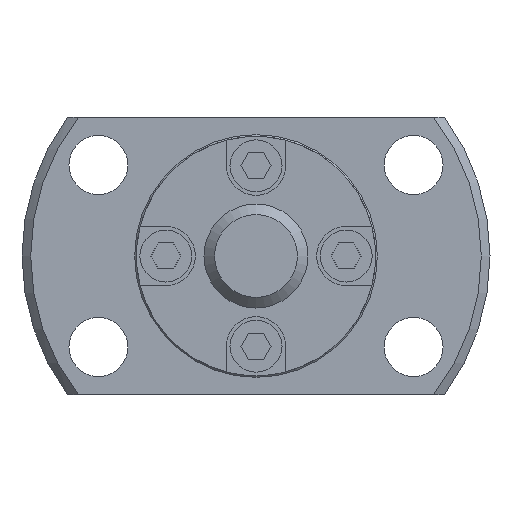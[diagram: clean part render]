
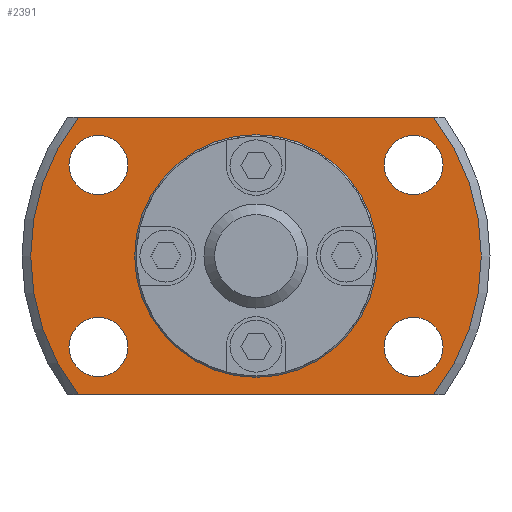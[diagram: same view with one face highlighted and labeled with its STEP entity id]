
A CAD part, left-side view. The second image highlights one B-rep face of the part: STEP entity #2391.
In plain terms, the highlighted planar face has unit normal (-1, 0, 0).
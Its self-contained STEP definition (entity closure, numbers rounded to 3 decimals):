
#113=LINE('',#3787,#337);
#114=LINE('',#3791,#338);
#337=VECTOR('',#3029,1000.);
#338=VECTOR('',#3032,1000.);
#689=ORIENTED_EDGE('',*,*,#1303,.F.);
#690=ORIENTED_EDGE('',*,*,#1304,.F.);
#691=ORIENTED_EDGE('',*,*,#1305,.F.);
#692=ORIENTED_EDGE('',*,*,#1306,.F.);
#693=ORIENTED_EDGE('',*,*,#1259,.F.);
#694=ORIENTED_EDGE('',*,*,#1307,.T.);
#695=ORIENTED_EDGE('',*,*,#1308,.F.);
#696=ORIENTED_EDGE('',*,*,#1309,.T.);
#697=ORIENTED_EDGE('',*,*,#1302,.T.);
#1259=EDGE_CURVE('',#1579,#1580,#1758,.T.);
#1302=EDGE_CURVE('',#1617,#1617,#1780,.T.);
#1303=EDGE_CURVE('',#1618,#1618,#1781,.F.);
#1304=EDGE_CURVE('',#1619,#1619,#1782,.F.);
#1305=EDGE_CURVE('',#1620,#1620,#1783,.F.);
#1306=EDGE_CURVE('',#1621,#1621,#1784,.F.);
#1307=EDGE_CURVE('',#1579,#1622,#113,.T.);
#1308=EDGE_CURVE('',#1623,#1622,#1785,.T.);
#1309=EDGE_CURVE('',#1623,#1580,#114,.T.);
#1579=VERTEX_POINT('',#3677);
#1580=VERTEX_POINT('',#3679);
#1617=VERTEX_POINT('',#3777);
#1618=VERTEX_POINT('',#3780);
#1619=VERTEX_POINT('',#3782);
#1620=VERTEX_POINT('',#3784);
#1621=VERTEX_POINT('',#3786);
#1622=VERTEX_POINT('',#3788);
#1623=VERTEX_POINT('',#3790);
#1758=CIRCLE('',#2583,13.);
#1780=CIRCLE('',#2614,6.8);
#1781=CIRCLE('',#2616,1.7);
#1782=CIRCLE('',#2617,1.7);
#1783=CIRCLE('',#2618,1.7);
#1784=CIRCLE('',#2619,1.7);
#1785=CIRCLE('',#2620,13.);
#1888=EDGE_LOOP('',(#689));
#1889=EDGE_LOOP('',(#690));
#1890=EDGE_LOOP('',(#691));
#1891=EDGE_LOOP('',(#692));
#1892=EDGE_LOOP('',(#693,#694,#695,#696));
#1893=EDGE_LOOP('',(#697));
#2100=FACE_BOUND('',#1888,.T.);
#2101=FACE_BOUND('',#1889,.T.);
#2102=FACE_BOUND('',#1890,.T.);
#2103=FACE_BOUND('',#1891,.T.);
#2104=FACE_BOUND('',#1892,.T.);
#2105=FACE_BOUND('',#1893,.T.);
#2269=PLANE('',#2615);
#2391=ADVANCED_FACE('',(#2100,#2101,#2102,#2103,#2104,#2105),#2269,.F.);
#2583=AXIS2_PLACEMENT_3D('',#3678,#2937,#2938);
#2614=AXIS2_PLACEMENT_3D('',#3776,#3017,#3018);
#2615=AXIS2_PLACEMENT_3D('',#3778,#3019,#3020);
#2616=AXIS2_PLACEMENT_3D('',#3779,#3021,#3022);
#2617=AXIS2_PLACEMENT_3D('',#3781,#3023,#3024);
#2618=AXIS2_PLACEMENT_3D('',#3783,#3025,#3026);
#2619=AXIS2_PLACEMENT_3D('',#3785,#3027,#3028);
#2620=AXIS2_PLACEMENT_3D('',#3789,#3030,#3031);
#2937=DIRECTION('',(1.,0.,0.));
#2938=DIRECTION('',(0.,0.,-1.));
#3017=DIRECTION('',(1.,0.,0.));
#3018=DIRECTION('',(0.,0.,-1.));
#3019=DIRECTION('',(1.,0.,0.));
#3020=DIRECTION('',(0.,0.,-1.));
#3021=DIRECTION('',(1.,0.,0.));
#3022=DIRECTION('',(0.,0.,-1.));
#3023=DIRECTION('',(1.,0.,0.));
#3024=DIRECTION('',(0.,0.,-1.));
#3025=DIRECTION('',(1.,0.,0.));
#3026=DIRECTION('',(0.,0.,-1.));
#3027=DIRECTION('',(1.,0.,0.));
#3028=DIRECTION('',(0.,0.,-1.));
#3029=DIRECTION('',(0.,-1.,0.));
#3030=DIRECTION('',(1.,0.,0.));
#3031=DIRECTION('',(0.,0.,-1.));
#3032=DIRECTION('',(0.,1.,0.));
#3677=CARTESIAN_POINT('',(8.,10.247,-8.));
#3678=CARTESIAN_POINT('',(8.,0.,0.));
#3679=CARTESIAN_POINT('',(8.,10.247,8.));
#3776=CARTESIAN_POINT('',(8.,0.,0.));
#3777=CARTESIAN_POINT('',(8.,0.,-6.8));
#3778=CARTESIAN_POINT('',(8.,6.8,0.));
#3779=CARTESIAN_POINT('',(8.,-9.093,-5.25));
#3780=CARTESIAN_POINT('',(8.,-9.093,-6.95));
#3781=CARTESIAN_POINT('',(8.,-9.093,5.25));
#3782=CARTESIAN_POINT('',(8.,-9.093,3.55));
#3783=CARTESIAN_POINT('',(8.,9.093,-5.25));
#3784=CARTESIAN_POINT('',(8.,9.093,-6.95));
#3785=CARTESIAN_POINT('',(8.,9.093,5.25));
#3786=CARTESIAN_POINT('',(8.,9.093,3.55));
#3787=CARTESIAN_POINT('',(8.,6.8,-8.));
#3788=CARTESIAN_POINT('',(8.,-10.247,-8.));
#3789=CARTESIAN_POINT('',(8.,0.,0.));
#3790=CARTESIAN_POINT('',(8.,-10.247,8.));
#3791=CARTESIAN_POINT('',(8.,6.8,8.));
